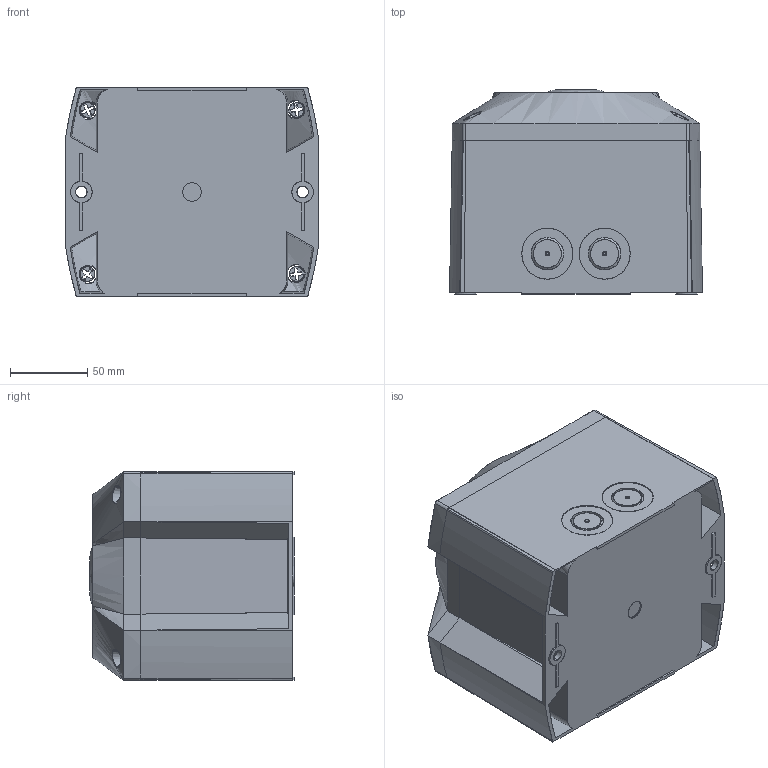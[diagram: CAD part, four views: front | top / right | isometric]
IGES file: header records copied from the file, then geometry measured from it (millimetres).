
Start section: SolidWorks IGES file using analytic representation for surfaces
Global section: file name: L:\3D Volumenmodelle\PATROL_PYRA\PA(X)5\PA5_30304-100.IGS; native system: SolidWorks 2011; preprocessor: SolidWorks 2011; author: MMark; date: 120110.110345; units: millimetre
Bounding box: 163.42 x 132 x 135 mm (x, y, z)
Surface area: 188894.7 mm2 (no closed solid volume)
Topology: 0 solids, 0 shells, 273 faces, 4093 edges, 4093 vertices
Faces by surface type: bspline 174, revolution 99
